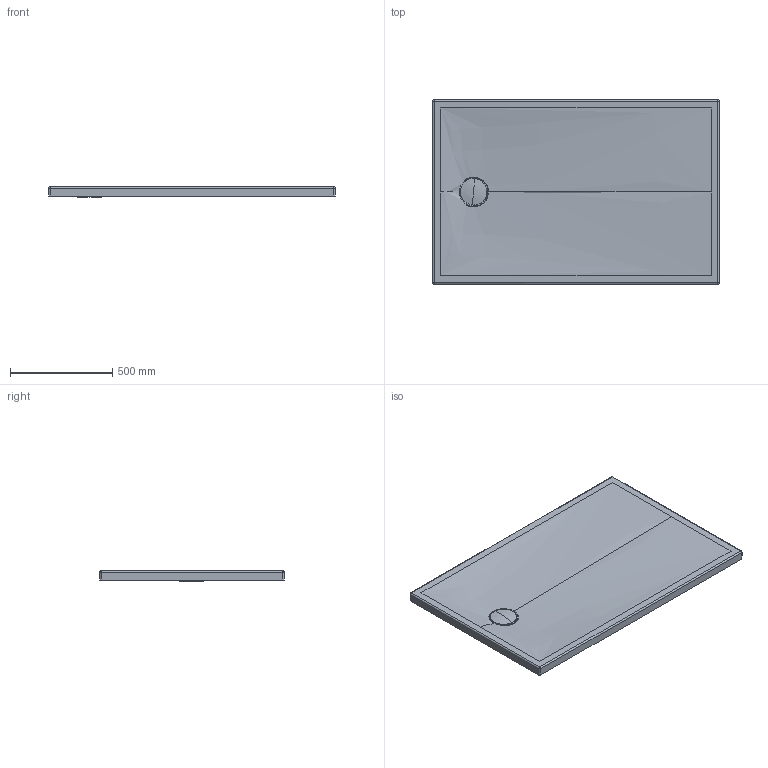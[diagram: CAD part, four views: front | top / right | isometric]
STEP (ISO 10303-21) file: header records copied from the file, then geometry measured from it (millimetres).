
FILE_DESCRIPTION(/* description */ (''),/* implementation_level */ '2;1');
FILE_NAME(/* name */ '720202',/* time_stamp */ '2019-03-05T08:58:42+01:00',/* author */ (''),/* organization */ (''),/* preprocessor_version */ 'ST-DEVELOPER v15',/* originating_system */ '',/* authorisation */ '');
FILE_SCHEMA (('AUTOMOTIVE_DESIGN'));
Length unit declared in the file: millimetre
Products named in the file (1): Document
Bounding box: 1400 x 900 x 50.31 mm (x, y, z)
Volume: 85786 mm3; surface area: 1509006.4 mm2
Topology: 2 solids, 3 shells, 49 faces, 118 edges, 69 vertices
Faces by surface type: bspline 49
Entity records: 5769 total; most frequent: CARTESIAN_POINT 4362, B_SPLINE_CURVE_WITH_KNOTS 264, ORIENTED_EDGE 214, PCURVE 214, DEFINITIONAL_REPRESENTATION 214, SURFACE_CURVE 112, EDGE_CURVE 112, VERTEX_POINT 69
